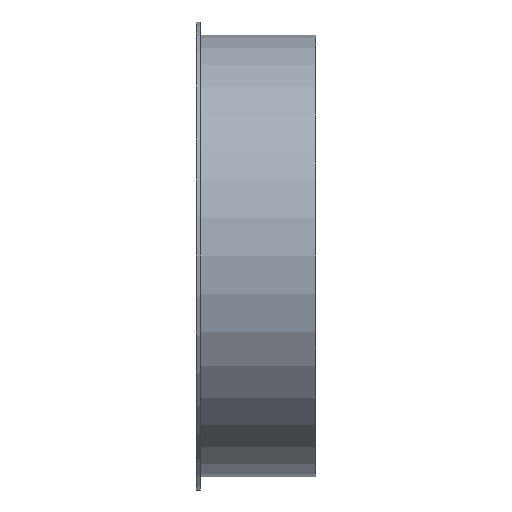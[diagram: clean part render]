
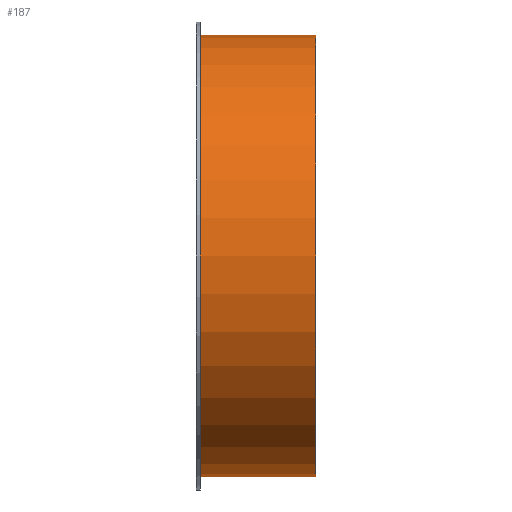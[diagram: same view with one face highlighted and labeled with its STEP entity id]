
A CAD part, front view. The second image highlights one B-rep face of the part: STEP entity #187.
In plain terms, the highlighted cylindrical face has radius 101.5 mm (diameter 203 mm), a full revolution.
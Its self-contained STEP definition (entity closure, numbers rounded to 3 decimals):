
#112=CARTESIAN_POINT('',(-15.,0.,0.0));
#113=VERTEX_POINT('',#112);
#114=CARTESIAN_POINT('',(-15.,101.5,0.0));
#115=DIRECTION('',(-1.0,0.0,0.0));
#116=DIRECTION('',(0.0,-1.0,0.0));
#117=AXIS2_PLACEMENT_3D('',#114,#115,#116);
#118=CIRCLE('',#117,101.5);
#119=EDGE_CURVE('',#113,#113,#118,.T.);
#161=CARTESIAN_POINT('',(38.0,0.,0.0));
#162=VERTEX_POINT('',#161);
#163=CARTESIAN_POINT('',(38.,101.5,0.0));
#164=DIRECTION('',(-1.0,0.0,0.0));
#165=DIRECTION('',(0.0,-1.0,0.0));
#166=AXIS2_PLACEMENT_3D('',#163,#164,#165);
#167=CIRCLE('',#166,101.5);
#168=EDGE_CURVE('',#162,#162,#167,.T.);
#176=CARTESIAN_POINT('',(11.5,101.5,0.0));
#177=DIRECTION('',(-1.0,0.,0.0));
#178=DIRECTION('',(0.0,-1.0,0.0));
#179=AXIS2_PLACEMENT_3D('',#176,#177,#178);
#180=CYLINDRICAL_SURFACE('',#179,101.5);
#181=ORIENTED_EDGE('',*,*,#119,.F.);
#182=EDGE_LOOP('',(#181));
#183=FACE_OUTER_BOUND('',#182,.T.);
#184=ORIENTED_EDGE('',*,*,#168,.T.);
#185=EDGE_LOOP('',(#184));
#186=FACE_BOUND('',#185,.T.);
#187=ADVANCED_FACE('',(#183,#186),#180,.T.);
